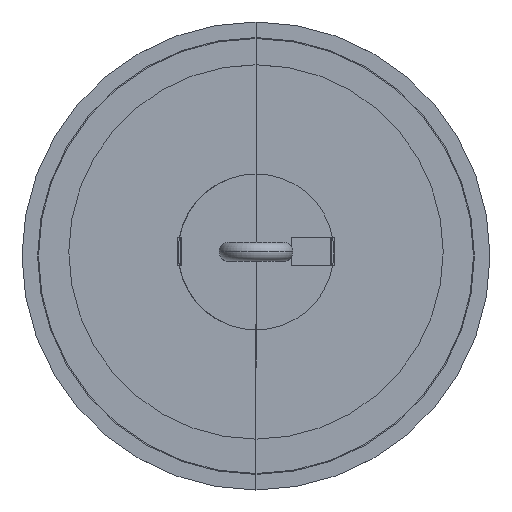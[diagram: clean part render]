
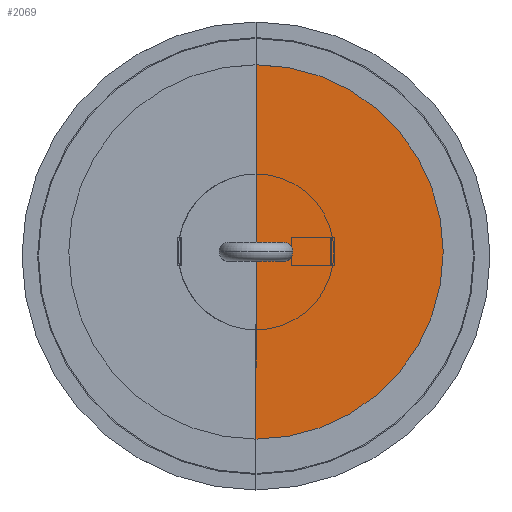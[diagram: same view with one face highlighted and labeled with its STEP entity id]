
A CAD part, top view. The second image highlights one B-rep face of the part: STEP entity #2069.
In plain terms, the highlighted planar face has unit normal (0, 0, 1).
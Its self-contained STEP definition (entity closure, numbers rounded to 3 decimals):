
#144=PLANE('',#2258);
#234=FACE_OUTER_BOUND('',#382,.T.);
#382=EDGE_LOOP('',(#1543,#1544));
#552=LINE('',#3737,#693);
#693=VECTOR('',#2646,304.8);
#802=CIRCLE('',#2259,120.);
#940=VERTEX_POINT('',#3734);
#941=VERTEX_POINT('',#3735);
#1151=EDGE_CURVE('',#940,#941,#802,.T.);
#1152=EDGE_CURVE('',#941,#940,#552,.T.);
#1543=ORIENTED_EDGE('',*,*,#1151,.F.);
#1544=ORIENTED_EDGE('',*,*,#1152,.F.);
#2069=ADVANCED_FACE('',(#234),#144,.T.);
#2258=AXIS2_PLACEMENT_3D('',#3733,#2642,#2643);
#2259=AXIS2_PLACEMENT_3D('',#3736,#2644,#2645);
#2642=DIRECTION('center_axis',(0.,0.,1.));
#2643=DIRECTION('ref_axis',(0.,1.,0.));
#2644=DIRECTION('center_axis',(0.,0.,-1.));
#2645=DIRECTION('ref_axis',(0.,1.,0.));
#2646=DIRECTION('',(0.,1.,0.));
#3733=CARTESIAN_POINT('Origin',(0.,0.,1508.));
#3734=CARTESIAN_POINT('',(0.,120.,1508.));
#3735=CARTESIAN_POINT('',(0.,-120.,1508.));
#3736=CARTESIAN_POINT('Origin',(0.,0.,
1508.));
#3737=CARTESIAN_POINT('',(0.,0.,1508.));
